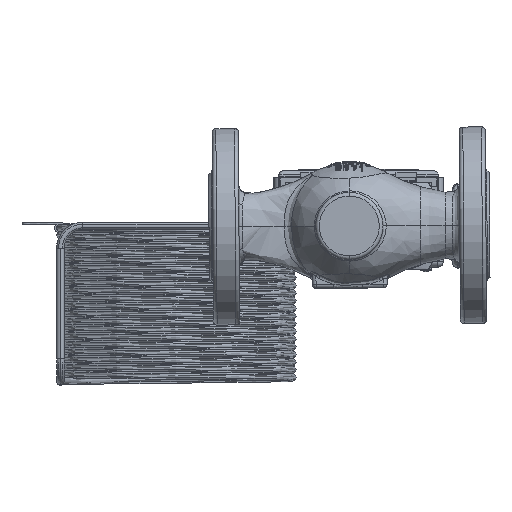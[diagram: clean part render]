
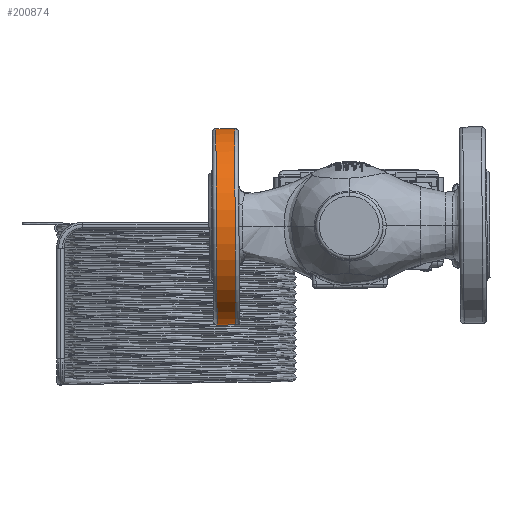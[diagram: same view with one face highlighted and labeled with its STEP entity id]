
A CAD part, front view. The second image highlights one B-rep face of the part: STEP entity #200874.
In plain terms, the highlighted cylindrical face has radius 52.5 mm (diameter 105 mm), a partial arc.
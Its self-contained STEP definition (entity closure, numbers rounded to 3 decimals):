
#14562 = LINE ( 'NONE', #141387, #163800 ) ;
#27786 = ORIENTED_EDGE ( 'NONE', *, *, #65710, .T. ) ;
#64110 = DIRECTION ( 'NONE',  ( -1., 0., 0. ) ) ;
#65710 = EDGE_CURVE ( 'NONE', #222480, #88511, #222486, .T. ) ;
#67228 = ORIENTED_EDGE ( 'NONE', *, *, #184897, .T. ) ;
#69562 = DIRECTION ( 'NONE',  ( 0., 0., 1. ) ) ;
#74272 = CARTESIAN_POINT ( 'NONE',  ( -79.145, 0., -52.5 ) ) ;
#75341 = CARTESIAN_POINT ( 'NONE',  ( 61., 0., 0. ) ) ;
#79788 = DIRECTION ( 'NONE',  ( -1., 0., 0. ) ) ;
#88511 = VERTEX_POINT ( 'NONE', #240543 ) ;
#88686 = CIRCLE ( 'NONE', #235378, 52.5 ) ;
#94943 = DIRECTION ( 'NONE',  ( 0., 0., 1. ) ) ;
#125495 = AXIS2_PLACEMENT_3D ( 'NONE', #146840, #185730, #69562 ) ;
#131495 = EDGE_CURVE ( 'NONE', #222480, #179003, #143411, .T. ) ;
#131670 = ORIENTED_EDGE ( 'NONE', *, *, #195953, .F. ) ;
#137349 = VECTOR ( 'NONE', #229151, 1000. ) ;
#141387 = CARTESIAN_POINT ( 'NONE',  ( -79.145, 0., 52.5 ) ) ;
#143411 = LINE ( 'NONE', #74272, #137349 ) ;
#146840 = CARTESIAN_POINT ( 'NONE',  ( -79.145, 0., 0. ) ) ;
#148870 = AXIS2_PLACEMENT_3D ( 'NONE', #195852, #79788, #215222 ) ;
#152435 = CARTESIAN_POINT ( 'NONE',  ( 61., 0., 52.5 ) ) ;
#154853 = CYLINDRICAL_SURFACE ( 'NONE', #125495, 52.5 ) ;
#163800 = VECTOR ( 'NONE', #64110, 1000. ) ;
#179003 = VERTEX_POINT ( 'NONE', #189772 ) ;
#179925 = CARTESIAN_POINT ( 'NONE',  ( 71., 0., -52.5 ) ) ;
#184897 = EDGE_CURVE ( 'NONE', #88511, #220293, #14562, .T. ) ;
#185730 = DIRECTION ( 'NONE',  ( -1., 0., 0. ) ) ;
#189772 = CARTESIAN_POINT ( 'NONE',  ( 61., 0., -52.5 ) ) ;
#195852 = CARTESIAN_POINT ( 'NONE',  ( 71., 0., 0. ) ) ;
#195953 = EDGE_CURVE ( 'NONE', #179003, #220293, #88686, .T. ) ;
#200874 = ADVANCED_FACE ( 'NONE', ( #218306 ), #154853, .T. ) ;
#210832 = DIRECTION ( 'NONE',  ( -1., 0., 0. ) ) ;
#215222 = DIRECTION ( 'NONE',  ( 0., 0., 1. ) ) ;
#218306 = FACE_OUTER_BOUND ( 'NONE', #229649, .T. ) ;
#220293 = VERTEX_POINT ( 'NONE', #152435 ) ;
#222480 = VERTEX_POINT ( 'NONE', #179925 ) ;
#222486 = CIRCLE ( 'NONE', #148870, 52.5 ) ;
#227997 = ORIENTED_EDGE ( 'NONE', *, *, #131495, .F. ) ;
#229151 = DIRECTION ( 'NONE',  ( -1., 0., 0. ) ) ;
#229649 = EDGE_LOOP ( 'NONE', ( #227997, #27786, #67228, #131670 ) ) ;
#235378 = AXIS2_PLACEMENT_3D ( 'NONE', #75341, #210832, #94943 ) ;
#240543 = CARTESIAN_POINT ( 'NONE',  ( 71., 0., 52.5 ) ) ;
